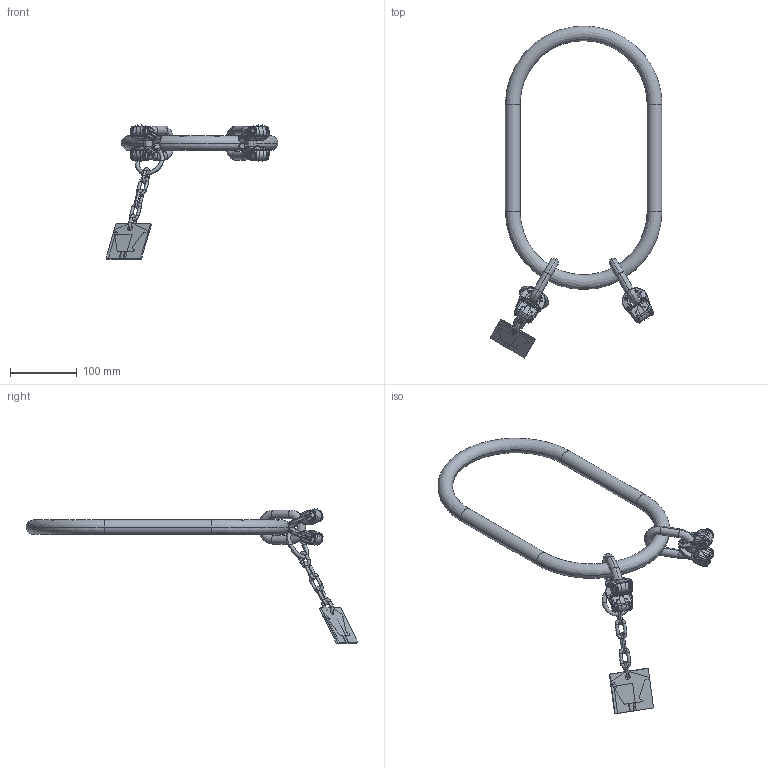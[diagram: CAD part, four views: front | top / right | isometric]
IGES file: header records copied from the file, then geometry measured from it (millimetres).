
Start section:  PTC IGES file: VSAK-4-6_190_7100751_M31313-P-1.igs
Global section: file name: VSAK-4-6_190_7100751_M31313-P-1.igs; native system: Pro/ENGINEER by Parametric Technology Corporation; preprocessor: 2010140; author: Andreas.Wendler; organization: Unknown; date: 20141024.135739; units: millimetre
Bounding box: 256.94 x 496.13 x 200.57 mm (x, y, z)
Volume: 534305.9 mm3; surface area: 592298.2 mm2
Topology: 14 solids, 18 shells, 3152 faces, 17906 edges, 23742 vertices
Faces by surface type: bspline 2234, revolution 918
